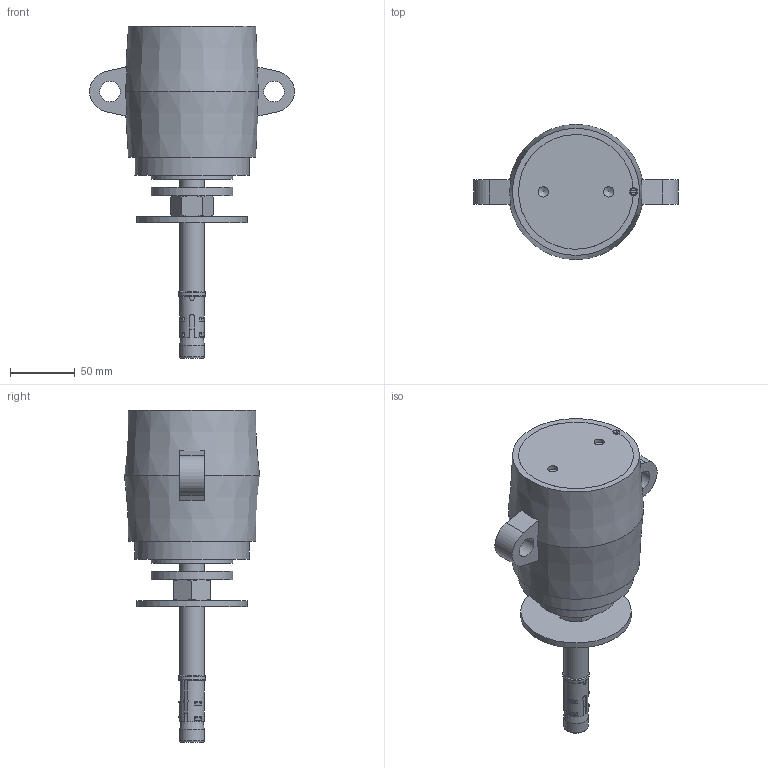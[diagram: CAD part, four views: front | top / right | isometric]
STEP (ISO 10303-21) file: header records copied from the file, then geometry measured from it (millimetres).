
FILE_DESCRIPTION(/* description */ (''),/* implementation_level */ '2;1');
FILE_NAME(/* name */ '\\Mleuckthor2\cad-proe_solids\WEBSITE FILES 05.22.13\STEP\SFFS\SFFS-4_2INCH AIR GAP.stp',/* time_stamp */ '2016-02-25T11:47:13-05:00',/* author */ ('rramoutar'),/* organization */ ('Mason Industries Inc.'),/* preprocessor_version */ 'ST-DEVELOPER v15.6',/* originating_system */ 'Autodesk Inventor 2015',/* authorisation */ '');
FILE_SCHEMA (('CONFIG_CONTROL_DESIGN'));
Length unit declared in the file: inch
Products named in the file (1): SFFS
Bounding box: 158.75 x 104.78 x 257.18 mm (x, y, z)
Volume: 540973.4 mm3; surface area: 189386.2 mm2
Topology: 12 solids, 12 shells, 213 faces, 490 edges, 310 vertices
Faces by surface type: plane 87, cone 45, cylinder 45, bspline 25, torus 10, sphere 1
Full cylindrical faces by diameter (mm): 6.35 x1, 7.998 x2, 15.24 x1, 15.875 x3, 16.307 x2, 17.462 x1, 19.05 x2, 20.637 x4, 25.4 x1, 31.75 x2, 63.5 x4, 85.725 x1, 88.9 x2
Entity records: 6714 total; most frequent: CARTESIAN_POINT 2175, ORIENTED_EDGE 870, DIRECTION 850, EDGE_CURVE 435, AXIS2_PLACEMENT_3D 360, VERTEX_POINT 299, EDGE_LOOP 286, FACE_OUTER_BOUND 213
